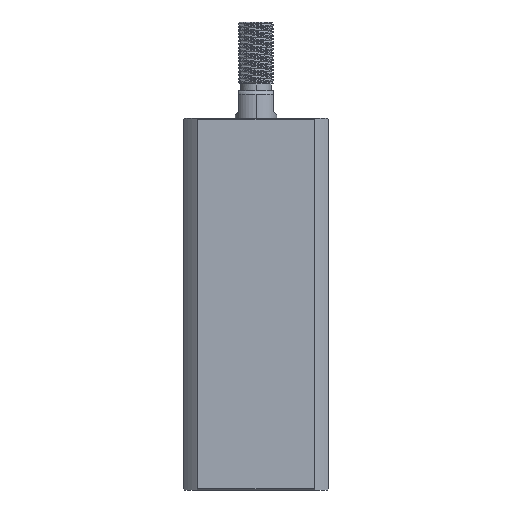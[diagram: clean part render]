
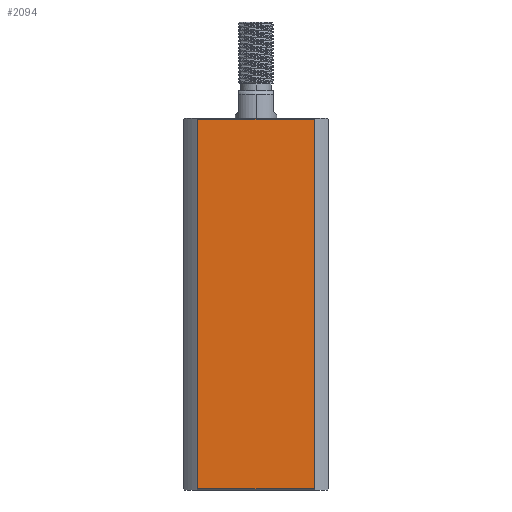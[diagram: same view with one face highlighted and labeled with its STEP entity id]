
A CAD part, left-side view. The second image highlights one B-rep face of the part: STEP entity #2094.
In plain terms, the highlighted planar face has unit normal (-1, 0, 0).
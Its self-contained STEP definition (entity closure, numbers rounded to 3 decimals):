
#133 = CARTESIAN_POINT ( 'NONE',  ( -21., 16.971, -192. ) ) ;
#453 = LINE ( 'NONE', #5561, #9356 ) ;
#1092 = DIRECTION ( 'NONE',  ( 0., 1., 0. ) ) ;
#1097 = VECTOR ( 'NONE', #5216, 1000. ) ;
#1200 = DIRECTION ( 'NONE',  ( 0., 0., 1. ) ) ;
#1242 = ORIENTED_EDGE ( 'NONE', *, *, #1334, .F. ) ;
#1334 = EDGE_CURVE ( 'NONE', #8152, #3644, #453, .T. ) ;
#2094 = ADVANCED_FACE ( 'NONE', ( #4969 ), #15024, .F. ) ;
#2878 = CARTESIAN_POINT ( 'NONE',  ( -21., 21., 107.7 ) ) ;
#2987 = ORIENTED_EDGE ( 'NONE', *, *, #4099, .T. ) ;
#3457 = CARTESIAN_POINT ( 'NONE',  ( -21., -16.971, 0.3 ) ) ;
#3644 = VERTEX_POINT ( 'NONE', #3457 ) ;
#4099 = EDGE_CURVE ( 'NONE', #6798, #3644, #7765, .T. ) ;
#4165 = LINE ( 'NONE', #2878, #1097 ) ;
#4505 = CARTESIAN_POINT ( 'NONE',  ( -21., 21., 0.3 ) ) ;
#4969 = FACE_OUTER_BOUND ( 'NONE', #11032, .T. ) ;
#5216 = DIRECTION ( 'NONE',  ( 0., 1., 0. ) ) ;
#5561 = CARTESIAN_POINT ( 'NONE',  ( -21., -16.971, -192. ) ) ;
#5618 = DIRECTION ( 'NONE',  ( 0., 0., -1. ) ) ;
#6359 = ORIENTED_EDGE ( 'NONE', *, *, #7003, .F. ) ;
#6744 = CARTESIAN_POINT ( 'NONE',  ( -21., 16.971, 107.7 ) ) ;
#6798 = VERTEX_POINT ( 'NONE', #7904 ) ;
#7003 = EDGE_CURVE ( 'NONE', #6798, #12118, #10585, .T. ) ;
#7481 = VECTOR ( 'NONE', #1200, 1000. ) ;
#7765 = LINE ( 'NONE', #4505, #13591 ) ;
#7904 = CARTESIAN_POINT ( 'NONE',  ( -21., 16.971, 0.3 ) ) ;
#8038 = DIRECTION ( 'NONE',  ( 1., 0., 0. ) ) ;
#8152 = VERTEX_POINT ( 'NONE', #10260 ) ;
#9168 = CARTESIAN_POINT ( 'NONE',  ( -21., 21., 108. ) ) ;
#9356 = VECTOR ( 'NONE', #5618, 1000. ) ;
#9833 = AXIS2_PLACEMENT_3D ( 'NONE', #9168, #8038, #1092 ) ;
#10260 = CARTESIAN_POINT ( 'NONE',  ( -21., -16.971, 107.7 ) ) ;
#10360 = DIRECTION ( 'NONE',  ( 0., -1., 0. ) ) ;
#10585 = LINE ( 'NONE', #133, #7481 ) ;
#11032 = EDGE_LOOP ( 'NONE', ( #6359, #2987, #1242, #14201 ) ) ;
#11934 = EDGE_CURVE ( 'NONE', #8152, #12118, #4165, .T. ) ;
#12118 = VERTEX_POINT ( 'NONE', #6744 ) ;
#13591 = VECTOR ( 'NONE', #10360, 1000. ) ;
#14201 = ORIENTED_EDGE ( 'NONE', *, *, #11934, .T. ) ;
#15024 = PLANE ( 'NONE',  #9833 ) ;
